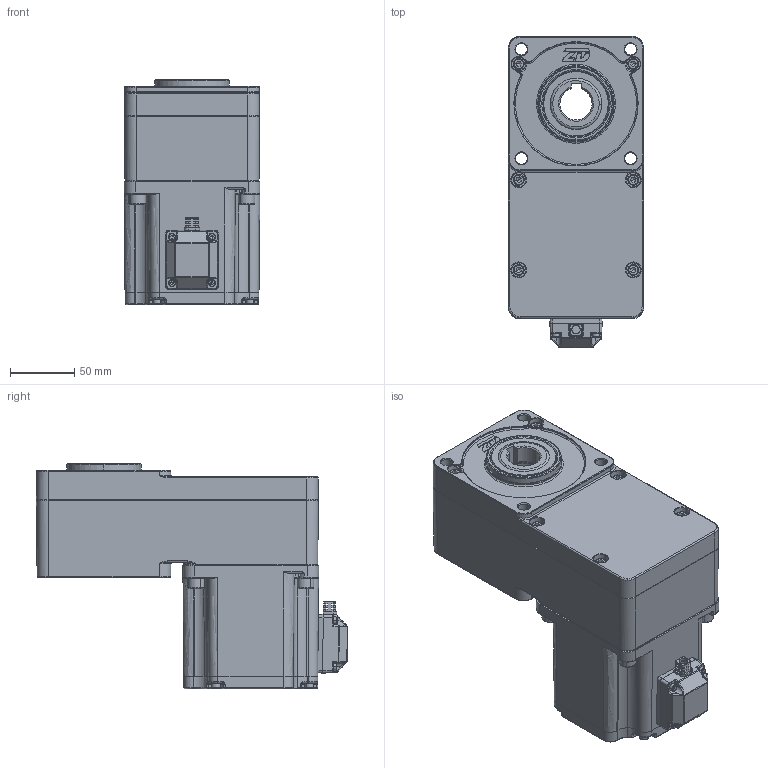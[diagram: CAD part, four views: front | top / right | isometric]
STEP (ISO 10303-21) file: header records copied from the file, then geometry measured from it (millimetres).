
FILE_DESCRIPTION (( 'STEP AP214' ), '1' );
FILE_NAME ('6GUL2三维外形.STEP', '2023-10-06T03:02:37', ( 'Windows 用户' ), ( 'Organization' ), 'SwSTEP 2.0', 'SolidWorks 2019', '' );
FILE_SCHEMA (( 'AUTOMOTIVE_DESIGN' ));
Length unit declared in the file: millimetre
Products named in the file (15): hexagon socket head cap screws gb_GB_FASTENER_SCREWS_HSHCS M5X25-N; ________2023.6.28_step.STEP; 90 104__________.STEP; hexagon socket head cap screws gb_GB_FASTENER_SCREWS_HSHCS M4X8-N.STEP; 6GUL2眊裔; 6GUL2三维外形; 諾陑怀堤粣; K2______.STEP; 100K2______.STEP; 104蚾饜极.STEP; 6GUL2眊极; 蚐猾; hexagon socket head cap screws gb_GB_FASTENER_SCREWS_HSHCS M3X8-N.STEP; 100K2____.STEP; hexagon socket head cap screws gb_GB_FASTENER_SCREWS_HSHCS M8X25-N
Assembly tree (29 placements, depth 4):
  6GUL2三维外形
    6GUL2眊裔
    6GUL2眊极
    hexagon socket head cap screws gb_GB_FASTENER_SCREWS_HSHCS M5X25-N  x6
    諾陑怀堤粣
    蚐猾  x2
    104蚾饜极.STEP
      90 104__________.STEP
        ________2023.6.28_step.STEP
        K2______.STEP
        hexagon socket head cap screws gb_GB_FASTENER_SCREWS_HSHCS M3X8-N.STEP  x4
      100K2______.STEP
      100K2____.STEP
      hexagon socket head cap screws gb_GB_FASTENER_SCREWS_HSHCS M4X8-N.STEP  x4
    hexagon socket head cap screws gb_GB_FASTENER_SCREWS_HSHCS M8X25-N  x4
Bounding box: 105.51 x 241.58 x 175.2 mm (x, y, z)
Volume: 2453159.5 mm3; surface area: 310427.6 mm2
Topology: 28 solids, 37 shells, 2381 faces, 5657 edges, 3324 vertices
Faces by surface type: plane 693, cylinder 532, bspline 338, torus 337, cone 319, sphere 162
Entity records: 70604 total; most frequent: CARTESIAN_POINT 24826, ORIENTED_EDGE 9546, DIRECTION 9532, EDGE_CURVE 4773, AXIS2_PLACEMENT_3D 3911, VERTEX_POINT 2854, CIRCLE 2190, EDGE_LOOP 2181
